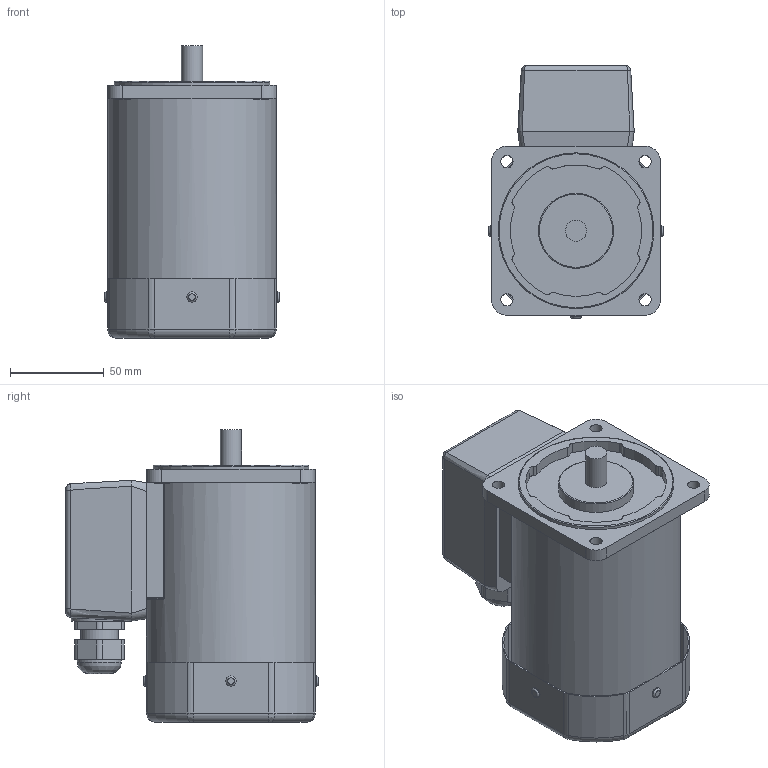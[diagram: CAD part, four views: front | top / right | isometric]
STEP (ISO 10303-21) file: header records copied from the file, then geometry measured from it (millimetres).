
FILE_DESCRIPTION((''),'2;1');
FILE_NAME('E:\2공장-도면\3D\표준형 3D(민규)\step file\K9IP150Fㅁ-T.stp','2014-11-13T10:16:41',('AHN'),(''),'Autodesk Inventor 2012','Autodesk Inventor 2012','');
FILE_SCHEMA(('CONFIG_CONTROL_DESIGN'));
Length unit declared in the file: millimetre
Products named in the file (3): K9IP150Fㅁ-T; K9IP90Fㅁ; TERMINAL BOX
Assembly tree (2 placements, depth 2):
  K9IP150Fㅁ-T
    K9IP90Fㅁ
    TERMINAL BOX
Bounding box: 93 x 134.5 x 156 mm (x, y, z)
Volume: 989286.6 mm3; surface area: 105122.8 mm2
Topology: 2 solids, 8 shells, 321 faces, 767 edges, 466 vertices
Faces by surface type: cylinder 151, plane 101, torus 48, bspline 21
Full cylindrical faces by diameter (mm): 5.5 x4, 6.5 x4, 8 x4, 11.3 x1, 20 x1, 23.5 x1, 40 x1, 83 x1, 90 x1
Entity records: 10517 total; most frequent: CARTESIAN_POINT 3075, DIRECTION 1574, ORIENTED_EDGE 1474, EDGE_CURVE 737, AXIS2_PLACEMENT_3D 620, VERTEX_POINT 463, EDGE_LOOP 394, VECTOR 334
